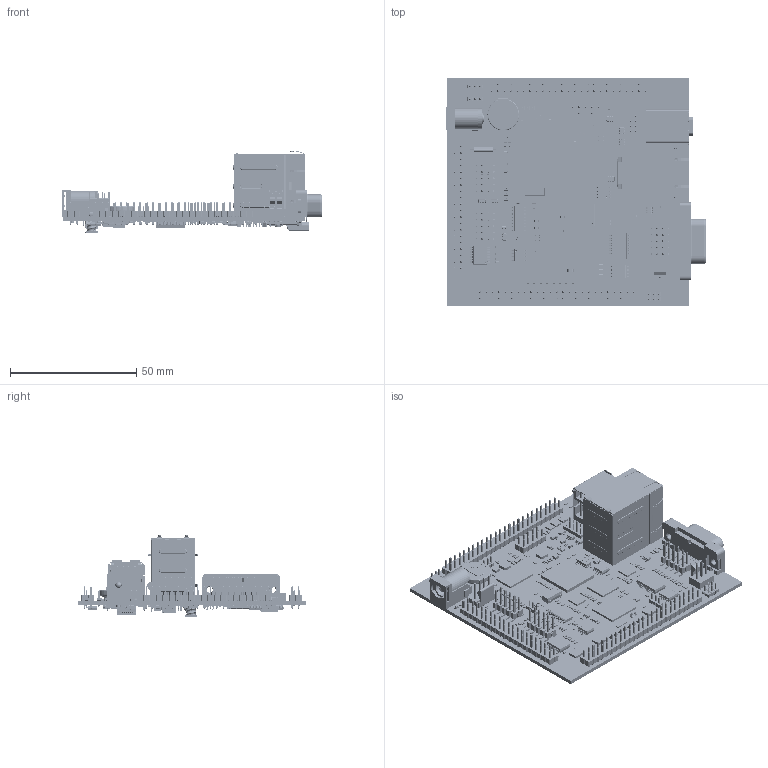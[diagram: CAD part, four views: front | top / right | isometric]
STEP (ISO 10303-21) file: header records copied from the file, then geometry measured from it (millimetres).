
FILE_DESCRIPTION(('Open CASCADE Model'),'2;1');
FILE_NAME('Open CASCADE Shape Model','2024-08-30T15:29:07',('Author'),( 'Open CASCADE'),'Open CASCADE STEP processor 7.5','Open CASCADE 7.5' ,'Unknown');
FILE_SCHEMA(('AUTOMOTIVE_DESIGN { 1 0 10303 214 1 1 1 1 }'));
Length unit declared in the file: millimetre
Products named in the file (508): PCB; Board; Open CASCADE STEP translator 7.5 1.1.1; R26; User Library-RES_1005-0402; U32; User Library-SC70-5-1; R86; C151; RC_0402; R85; HDR9; Samtec_MTMM-105-02-S-D-120-010; _MTMM-105-02-S-D-120-010_pins; _MTMM-105-02-S-D-120-010_body; JB5; HDR Samtec MTMM-103-02-F-S-120; C134; C132; U27; U20; User Library-sot235; R69; User Library-RES_1609-0603; R68; R67; R66; R64; LD10; LED 0603 GRE; Z13; cat_10-j; Z12; C80; CAPC_0603X___; R58; R56; R55; L32; IND-IHLP2020CZ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
Assembly tree (1218 placements, depth 6):
  PCB
    Board
      Open CASCADE STEP translator 7.5 1.1.1
    R26
      User Library-RES_1005-0402
    U32
      User Library-SC70-5-1
    R86
      User Library-RES_1005-0402
    C151
      RC_0402
    R85
      User Library-RES_1005-0402
    HDR9
      Samtec_MTMM-105-02-S-D-120-010
        _MTMM-105-02-S-D-120-010_pins
        _MTMM-105-02-S-D-120-010_body
    JB5
      HDR Samtec MTMM-103-02-F-S-120
    C134
      RC_0402
    C132
      RC_0402
    U27
      User Library-SC70-5-1
    U20
      User Library-sot235
    R69
      User Library-RES_1609-0603
    R68
      User Library-RES_1005-0402
    R67
      User Library-RES_1005-0402
    R66
      User Library-RES_1005-0402
    R64
      User Library-RES_1005-0402
    LD10
      LED 0603 GRE
    Z13
      cat_10-j
    Z12
      cat_10-j
    C80
      CAPC_0603X___
    R58
      User Library-RES_1609-0603
    R56
      User Library-RES_1609-0603
    R55
      User Library-RES_1609-0603
    L32
      IND-IHLP2020CZ
    L31
      User Library-LQH55D series
    D2
      User Library-DO-214AC(SMA)
    C131
      CAPC_0603X___
    C130
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Bounding box: 103.04 x 90 x 32.67 mm (x, y, z)
Volume: 33185.7 mm3; surface area: 56020.3 mm2
Topology: 1797 solids, 1803 shells, 45311 faces, 114856 edges, 74017 vertices
Faces by surface type: plane 32036, bspline 7555, cylinder 4486, sphere 606, torus 550, cone 78
Full cylindrical faces by diameter (mm): 0.4 x2, 2.95 x2
Entity records: 430072 total; most frequent: CARTESIAN_POINT 112881, ORIENTED_EDGE 56160, DIRECTION 52861, EDGE_CURVE 28083, LINE 21853, VECTOR 21853, VERTEX_POINT 18370, AXIS2_PLACEMENT_3D 15504
